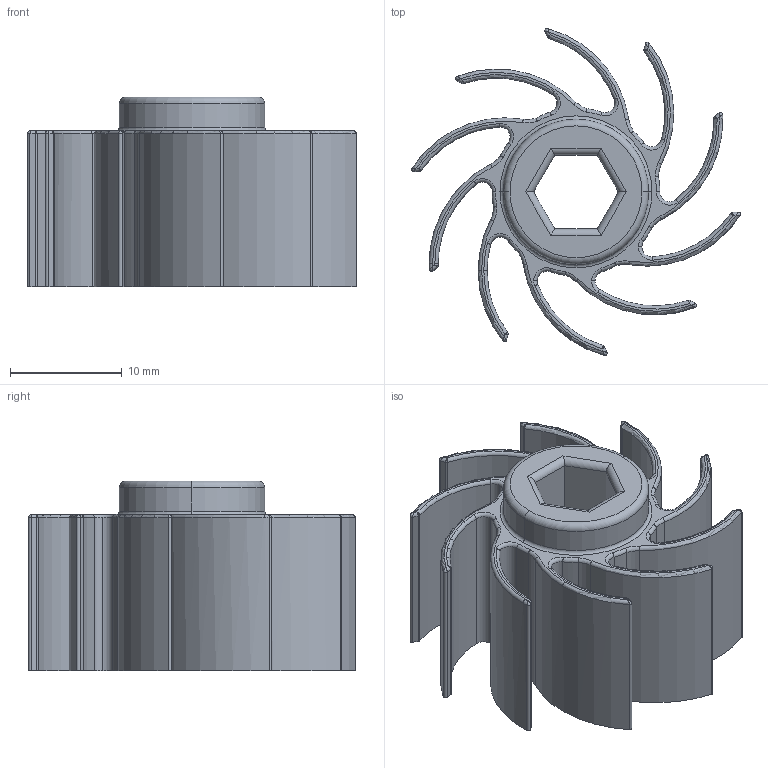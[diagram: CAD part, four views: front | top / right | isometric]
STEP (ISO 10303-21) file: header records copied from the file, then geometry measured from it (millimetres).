
FILE_DESCRIPTION (( 'STEP AP214' ), '1' );
FILE_NAME ('Torque-Rotor-0.8.STEP', '2020-05-03T10:34:04', ( 'Valera' ), ( '' ), 'SwSTEP 2.0', 'SolidWorks 2020', '' );
FILE_SCHEMA (( 'AUTOMOTIVE_DESIGN' ));
Length unit declared in the file: millimetre
Products named in the file (1): Torque-Rotor-0.8
Bounding box: 29.44 x 29.25 x 17 mm (x, y, z)
Volume: 3564 mm3; surface area: 4513 mm2
Topology: 1 solids, 1 shells, 209 faces, 525 edges, 300 vertices
Faces by surface type: cylinder 105, torus 64, plane 20, bspline 20
Entity records: 6803 total; most frequent: CARTESIAN_POINT 1863, DIRECTION 1125, ORIENTED_EDGE 1010, EDGE_CURVE 505, AXIS2_PLACEMENT_3D 486, VERTEX_POINT 300, CIRCLE 296, EDGE_LOOP 213
